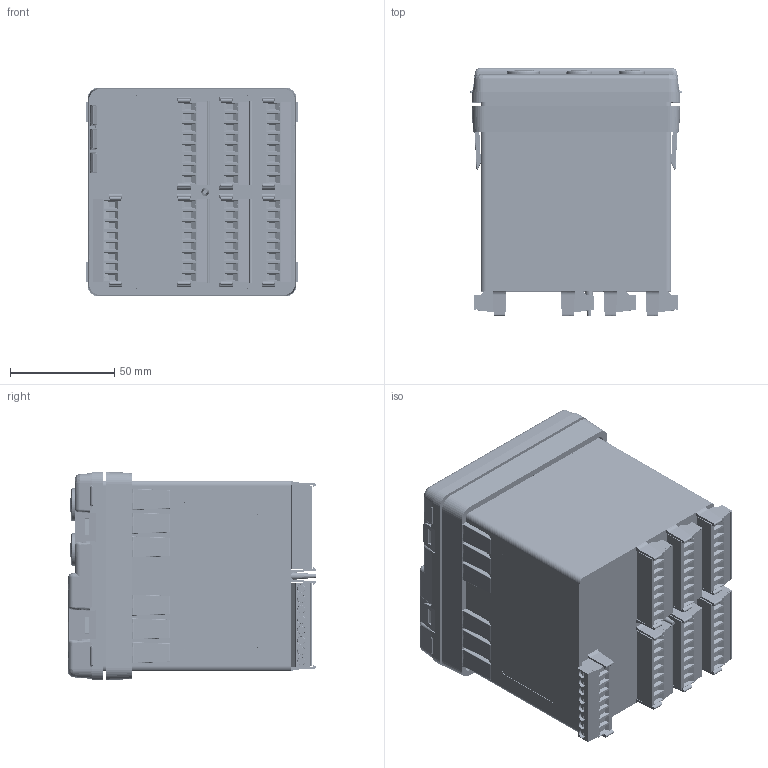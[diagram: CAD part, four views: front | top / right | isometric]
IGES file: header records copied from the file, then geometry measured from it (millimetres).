
Start section: SolidWorks IGES file using analytic representation for surfaces
Global section: file name: C:\Documents and Settings\houjas\Desktop\PM4\WORKING\PM4XXXX-XXXXXXX IGS.IGS; native system: SolidWorks 2008; preprocessor: SolidWorks 2008; author: Houjas; date: 091017.121913; units: inch
Bounding box: 101.85 x 118.92 x 100.33 mm (x, y, z)
Surface area: 167733.2 mm2 (no closed solid volume)
Topology: 0 solids, 0 shells, 7246 faces, 62089 edges, 62049 vertices
Faces by surface type: bspline 5204, revolution 2042
